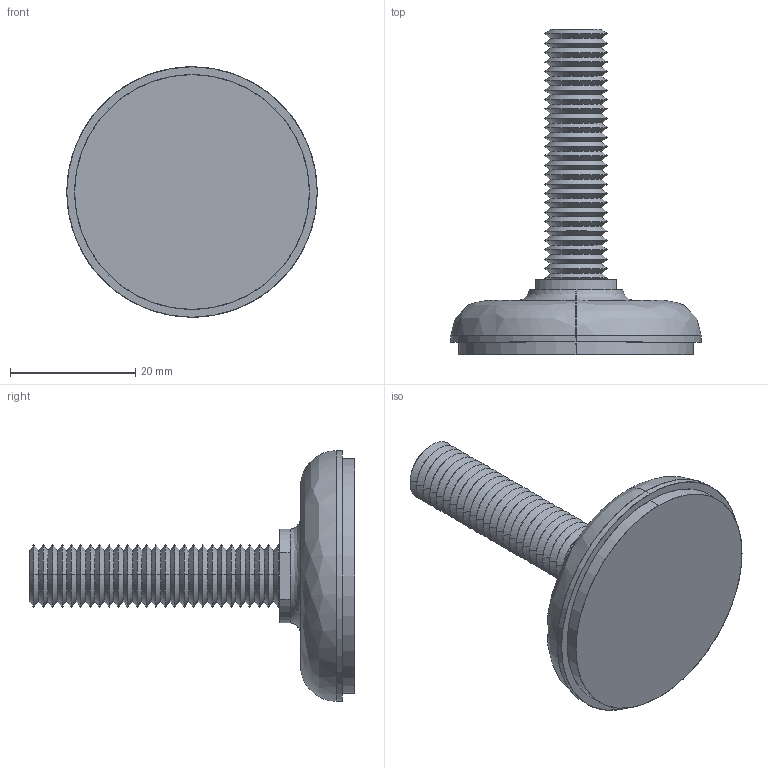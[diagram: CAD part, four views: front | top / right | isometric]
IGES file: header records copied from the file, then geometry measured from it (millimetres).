
Start section: SolidWorks IGES file using analytic representation for surfaces
Global section: file name: C:\Documents and Settings\IANO\Desktop\Temp File\Process pending\EXISTING\34780_v2\34780_v2_20170626_IGES\34780.W0100.igs; native system: SolidWorks 2009; preprocessor: SolidWorks 2009; author: IANO; date: 170626.122147; units: millimetre
Bounding box: 40 x 52 x 40 mm (x, y, z)
Surface area: 11580.9 mm2 (no closed solid volume)
Topology: 0 solids, 0 shells, 172 faces, 1634 edges, 1634 vertices
Faces by surface type: revolution 144, bspline 28
